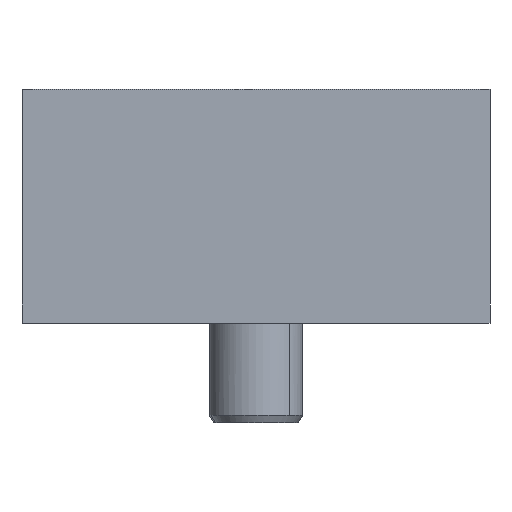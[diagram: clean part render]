
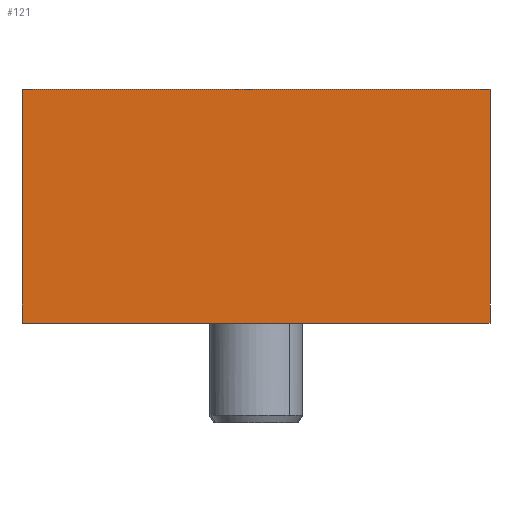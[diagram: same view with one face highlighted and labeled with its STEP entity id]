
A CAD part, front view. The second image highlights one B-rep face of the part: STEP entity #121.
In plain terms, the highlighted planar face has unit normal (0, -1, 0).
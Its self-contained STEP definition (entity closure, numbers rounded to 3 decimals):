
#121=ADVANCED_FACE('5252087.1_Leiste fuer Aufnahmeadapter 90 Grad SW50',(#270),#271,.F.);
#270=FACE_OUTER_BOUND('',#452,.T.);
#271=PLANE('',#453);
#452=EDGE_LOOP('',(#721,#722,#723,#724));
#453=AXIS2_PLACEMENT_3D('',#725,#726,#727);
#721=ORIENTED_EDGE('',*,*,#1099,.F.);
#722=ORIENTED_EDGE('',*,*,#1080,.F.);
#723=ORIENTED_EDGE('',*,*,#1101,.F.);
#724=ORIENTED_EDGE('',*,*,#1089,.F.);
#725=CARTESIAN_POINT('',(0.0,-112.5,0.0));
#726=DIRECTION('',(0.0,1.0,0.0));
#727=DIRECTION('',(0.0,0.0,1.0));
#1080=EDGE_CURVE('',#1306,#1308,#1309,.T.);
#1089=EDGE_CURVE('',#1319,#1321,#1322,.T.);
#1099=EDGE_CURVE('',#1308,#1319,#1332,.T.);
#1101=EDGE_CURVE('',#1321,#1306,#1334,.T.);
#1306=VERTEX_POINT('',#1924);
#1308=VERTEX_POINT('',#1927);
#1309=B_SPLINE_CURVE_WITH_KNOTS('',1,(#1928,#1929),.UNSPECIFIED.,.F.,.F.,(2,2),(0.0,1.0),.UNSPECIFIED.);
#1319=VERTEX_POINT('',#1985);
#1321=VERTEX_POINT('',#1988);
#1322=B_SPLINE_CURVE_WITH_KNOTS('',1,(#1989,#1990),.UNSPECIFIED.,.F.,.F.,(2,2),(0.,1.0),.UNSPECIFIED.);
#1332=B_SPLINE_CURVE_WITH_KNOTS('',1,(#2047,#2048),.UNSPECIFIED.,.F.,.F.,(2,2),(0.0,1.0),.UNSPECIFIED.);
#1334=B_SPLINE_CURVE_WITH_KNOTS('',1,(#2050,#2051),.UNSPECIFIED.,.F.,.F.,(2,2),(0.,1.0),.UNSPECIFIED.);
#1924=CARTESIAN_POINT('',(-15.0,-112.5,15.0));
#1927=CARTESIAN_POINT('',(15.0,-112.5,15.0));
#1928=CARTESIAN_POINT('',(-15.0,-112.5,15.0));
#1929=CARTESIAN_POINT('',(15.0,-112.5,15.0));
#1985=CARTESIAN_POINT('',(15.0,-112.5,0.0));
#1988=CARTESIAN_POINT('',(-15.0,-112.5,0.0));
#1989=CARTESIAN_POINT('',(15.0,-112.5,0.0));
#1990=CARTESIAN_POINT('',(-15.0,-112.5,0.0));
#2047=CARTESIAN_POINT('',(15.0,-112.5,15.0));
#2048=CARTESIAN_POINT('',(15.0,-112.5,0.));
#2050=CARTESIAN_POINT('',(-15.0,-112.5,0.0));
#2051=CARTESIAN_POINT('',(-15.0,-112.5,15.0));
